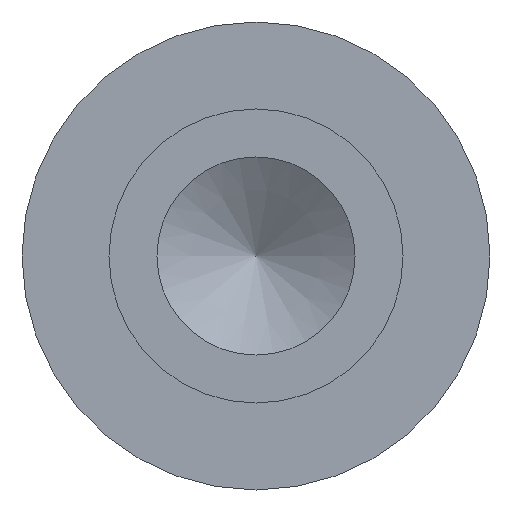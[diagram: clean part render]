
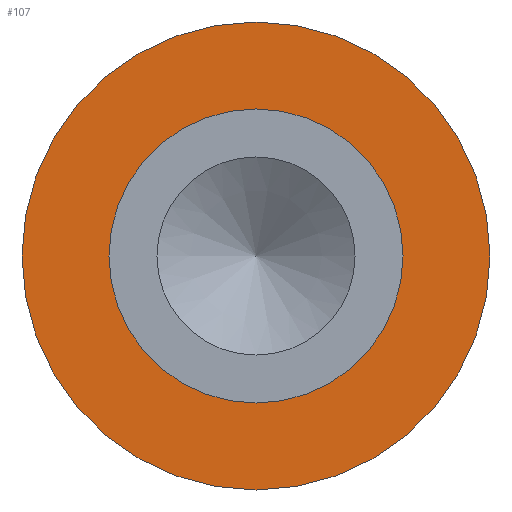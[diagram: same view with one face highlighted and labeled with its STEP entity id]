
A CAD part, left-side view. The second image highlights one B-rep face of the part: STEP entity #107.
In plain terms, the highlighted planar face has unit normal (-1, 0, 0).
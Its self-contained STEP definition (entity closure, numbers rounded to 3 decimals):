
#13=PLANE($,#124);
#19=FACE_BOUND($,#45,.T.);
#34=FACE_OUTER_BOUND($,#44,.T.);
#44=EDGE_LOOP($,(#89));
#45=EDGE_LOOP($,(#90));
#59=CIRCLE($,#122,0.622);
#61=CIRCLE($,#125,0.99);
#68=VERTEX_POINT($,#184);
#70=VERTEX_POINT($,#189);
#77=EDGE_CURVE($,#68,#68,#59,.T.);
#79=EDGE_CURVE($,#70,#70,#61,.T.);
#89=ORIENTED_EDGE($,*,*,#79,.F.);
#90=ORIENTED_EDGE($,*,*,#77,.T.);
#107=ADVANCED_FACE($,(#34,#19),#13,.T.);
#122=AXIS2_PLACEMENT_3D($,#185,#148,#149);
#124=AXIS2_PLACEMENT_3D($,#188,#152,#153);
#125=AXIS2_PLACEMENT_3D($,#190,#154,#155);
#148=DIRECTION('center_axis',(1.,0.,0.));
#149=DIRECTION('ref_axis',(0.,1.,0.));
#152=DIRECTION('center_axis',(-1.,0.,0.));
#153=DIRECTION('ref_axis',(0.,0.,1.));
#154=DIRECTION('center_axis',(1.,0.,0.));
#155=DIRECTION('ref_axis',(0.,1.,0.));
#184=CARTESIAN_POINT('',(2.87,0.622,0.));
#185=CARTESIAN_POINT('Origin',(2.87,0.,0.));
#188=CARTESIAN_POINT('Origin',(2.87,0.806,0.));
#189=CARTESIAN_POINT('',(2.87,0.99,0.));
#190=CARTESIAN_POINT('Origin',(2.87,0.,0.));
